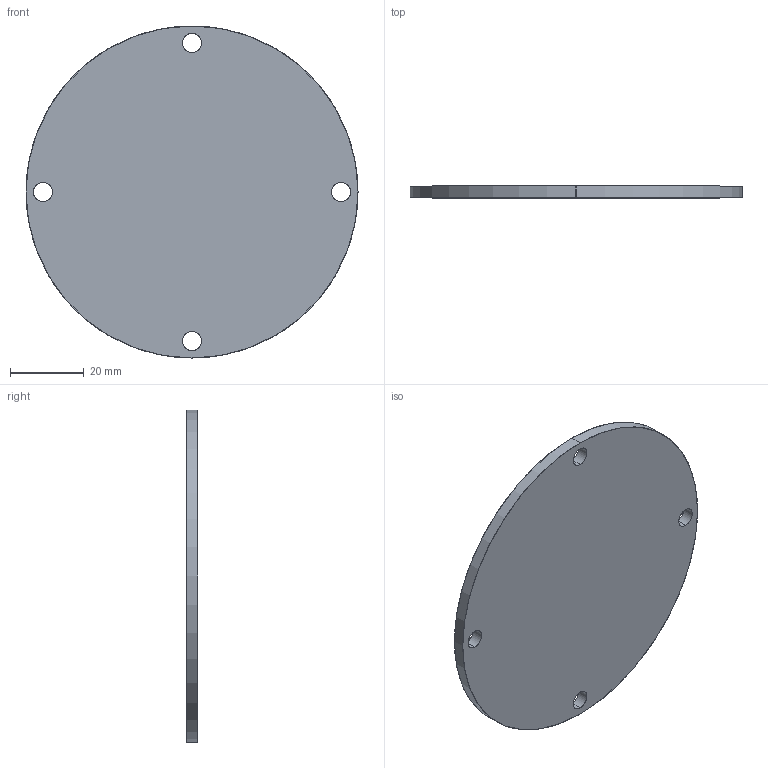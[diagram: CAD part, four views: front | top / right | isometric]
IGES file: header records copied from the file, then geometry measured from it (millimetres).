
Start section: SolidWorks IGES file using analytic representation for surfaces
Global section: file name: D:\Projects\Fabule\Solidworks\v8\silicone\lamp-eye.IGS; native system: SolidWorks 2013; preprocessor: SolidWorks 2013; author: Bruno; date: 130502.040406; units: millimetre
Bounding box: 90 x 3.17 x 90 mm (x, y, z)
Surface area: 13659.2 mm2 (no closed solid volume)
Topology: 0 solids, 0 shells, 12 faces, 424 edges, 424 vertices
Faces by surface type: revolution 10, bspline 2
